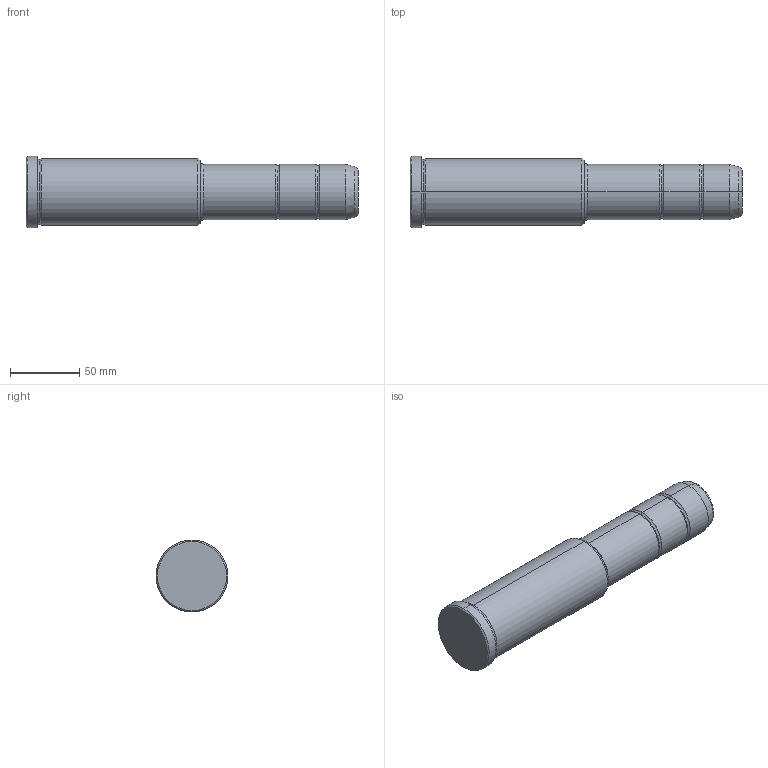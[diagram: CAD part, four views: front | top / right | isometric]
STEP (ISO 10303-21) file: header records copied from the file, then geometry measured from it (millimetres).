
FILE_DESCRIPTION(('CATIA V5 STEP Exchange'),'2;1');
FILE_NAME('C:\Users\Utente\Desktop\IO LAVORO\3D X SITO CF\X SITO\PLASTICA\351\351-40X126X240.stp','2021-11-03T19:13:55+00:00',('none'),('none'),'CATIA Version 5 Release 20 GA (IN-10)','CATIA V5 STEP AP203','none');
FILE_SCHEMA(('CONFIG_CONTROL_DESIGN'));
Length unit declared in the file: millimetre
Products named in the file (1): 351-40X126X240
Bounding box: 240 x 52 x 52 mm (x, y, z)
Volume: 371590.3 mm3; surface area: 37121.9 mm2
Topology: 1 solids, 1 shells, 36 faces, 102 edges, 70 vertices
Faces by surface type: torus 16, cylinder 10, cone 6, plane 4
Entity records: 1292 total; most frequent: CARTESIAN_POINT 321, ORIENTED_EDGE 204, DIRECTION 166, AXIS2_PLACEMENT_3D 115, EDGE_CURVE 102, CIRCLE 78, VERTEX_POINT 70, EDGE_LOOP 38
